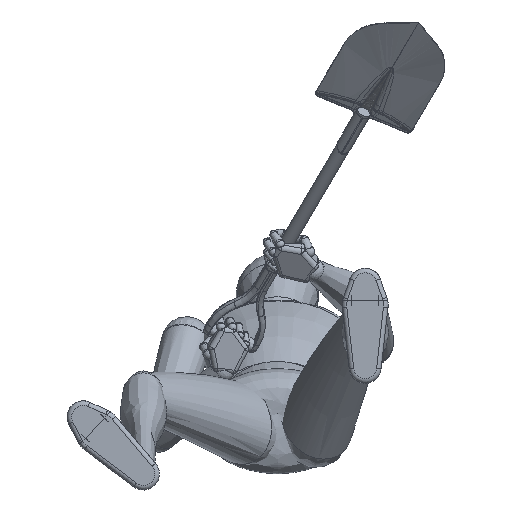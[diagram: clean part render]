
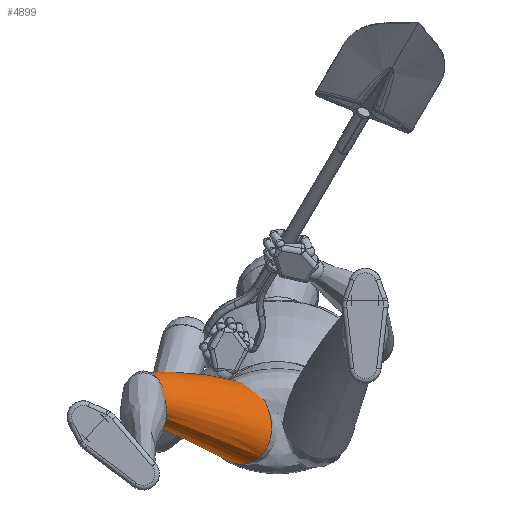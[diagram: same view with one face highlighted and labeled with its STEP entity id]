
A CAD part, front view. The second image highlights one B-rep face of the part: STEP entity #4899.
In plain terms, the highlighted free-form (B-spline) face has degree [3, 3] with [26, 4] control points.
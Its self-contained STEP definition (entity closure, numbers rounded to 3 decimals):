
#771=ELLIPSE('',#5767,55.,45.);
#772=ELLIPSE('',#5768,100.,80.);
#1091=B_SPLINE_SURFACE_WITH_KNOTS('',3,3,((#10746,#10747,#10748,#10749),
(#10750,#10751,#10752,#10753),(#10754,#10755,#10756,#10757),(#10758,#10759,
#10760,#10761),(#10762,#10763,#10764,#10765),(#10766,#10767,#10768,#10769),
(#10770,#10771,#10772,#10773),(#10774,#10775,#10776,#10777),(#10778,#10779,
#10780,#10781),(#10782,#10783,#10784,#10785),(#10786,#10787,#10788,#10789),
(#10790,#10791,#10792,#10793),(#10794,#10795,#10796,#10797),(#10798,#10799,
#10800,#10801),(#10802,#10803,#10804,#10805),(#10806,#10807,#10808,#10809),
(#10810,#10811,#10812,#10813),(#10814,#10815,#10816,#10817),(#10818,#10819,
#10820,#10821),(#10822,#10823,#10824,#10825),(#10826,#10827,#10828,#10829),
(#10830,#10831,#10832,#10833),(#10834,#10835,#10836,#10837),(#10838,#10839,
#10840,#10841),(#10842,#10843,#10844,#10845),(#10846,#10847,#10848,#10849)),
 .UNSPECIFIED.,.T.,.F.,.F.,(4,1,1,1,1,1,1,1,1,1,1,1,1,1,1,1,1,1,1,1,1,1,
1,4),(4,4),(0.,0.036,0.071,0.107,
0.143,0.19,0.238,0.286,
0.333,0.381,0.429,0.476,
0.524,0.571,0.619,0.667,
0.714,0.786,0.821,0.857,
0.893,0.929,0.964,1.),(0.,1.),
 .UNSPECIFIED.);
#1158=B_SPLINE_CURVE_WITH_KNOTS('',3,(#10850,#10851,#10852,#10853),
 .UNSPECIFIED.,.F.,.F.,(4,4),(0.,1.),.UNSPECIFIED.);
#1272=FACE_OUTER_BOUND('',#1588,.T.);
#1588=EDGE_LOOP('',(#3509,#3510,#3511,#3512));
#2253=VERTEX_POINT('',#10628);
#2255=VERTEX_POINT('',#10739);
#2743=EDGE_CURVE('',#2253,#2253,#771,.T.);
#2745=EDGE_CURVE('',#2255,#2255,#772,.T.);
#2747=EDGE_CURVE('',#2255,#2253,#1158,.T.);
#3509=ORIENTED_EDGE('',*,*,#2745,.T.);
#3510=ORIENTED_EDGE('',*,*,#2747,.T.);
#3511=ORIENTED_EDGE('',*,*,#2743,.F.);
#3512=ORIENTED_EDGE('',*,*,#2747,.F.);
#4899=ADVANCED_FACE('',(#1272),#1091,.T.);
#5767=AXIS2_PLACEMENT_3D('',#10629,#6517,#6518);
#5768=AXIS2_PLACEMENT_3D('',#10740,#6519,#6520);
#6517=DIRECTION('center_axis',(0.,-1.,0.));
#6518=DIRECTION('ref_axis',(0.,0.,1.));
#6519=DIRECTION('center_axis',(0.,-1.,0.));
#6520=DIRECTION('ref_axis',(0.,0.,1.));
#10628=CARTESIAN_POINT('',(0.,-360.,-50.));
#10629=CARTESIAN_POINT('Origin',(0.,-360.,5.));
#10739=CARTESIAN_POINT('',(0.,0.,-100.));
#10740=CARTESIAN_POINT('Origin',(0.,0.,0.));
#10746=CARTESIAN_POINT('Ctrl Pts',(0.,0.,-100.));
#10747=CARTESIAN_POINT('Ctrl Pts',(0.,-120.418,
-78.865));
#10748=CARTESIAN_POINT('Ctrl Pts',(0.,-240.418,
-62.198));
#10749=CARTESIAN_POINT('Ctrl Pts',(0.,-360.,-50.));
#10750=CARTESIAN_POINT('Ctrl Pts',(5.984,0.,-100.));
#10751=CARTESIAN_POINT('Ctrl Pts',(5.363,-120.418,-78.865));
#10752=CARTESIAN_POINT('Ctrl Pts',(4.491,-240.418,-62.198));
#10753=CARTESIAN_POINT('Ctrl Pts',(3.366,-360.,-50.));
#10754=CARTESIAN_POINT('Ctrl Pts',(17.952,0.,-98.314));
#10755=CARTESIAN_POINT('Ctrl Pts',(16.089,-120.418,-77.342));
#10756=CARTESIAN_POINT('Ctrl Pts',(13.471,-240.418,-60.928));
#10757=CARTESIAN_POINT('Ctrl Pts',(10.098,-360.,-49.073));
#10758=CARTESIAN_POINT('Ctrl Pts',(35.004,0.,-90.857));
#10759=CARTESIAN_POINT('Ctrl Pts',(31.373,-120.418,-70.603));
#10760=CARTESIAN_POINT('Ctrl Pts',(26.268,-240.418,-55.308));
#10761=CARTESIAN_POINT('Ctrl Pts',(19.69,-360.,-44.971));
#10762=CARTESIAN_POINT('Ctrl Pts',(50.3,0.,-78.842));
#10763=CARTESIAN_POINT('Ctrl Pts',(45.082,-120.418,-59.746));
#10764=CARTESIAN_POINT('Ctrl Pts',(37.746,-240.418,-46.253));
#10765=CARTESIAN_POINT('Ctrl Pts',(28.294,-360.,-38.363));
#10766=CARTESIAN_POINT('Ctrl Pts',(64.496,0.,-61.103));
#10767=CARTESIAN_POINT('Ctrl Pts',(57.805,-120.418,-43.717));
#10768=CARTESIAN_POINT('Ctrl Pts',(48.399,-240.418,-32.885));
#10769=CARTESIAN_POINT('Ctrl Pts',(36.279,-360.,-28.606));
#10770=CARTESIAN_POINT('Ctrl Pts',(75.591,0.,-37.084));
#10771=CARTESIAN_POINT('Ctrl Pts',(67.749,-120.418,-22.013));
#10772=CARTESIAN_POINT('Ctrl Pts',(56.725,-240.418,-14.784));
#10773=CARTESIAN_POINT('Ctrl Pts',(42.52,-360.,-15.396));
#10774=CARTESIAN_POINT('Ctrl Pts',(80.975,0.,-7.584));
#10775=CARTESIAN_POINT('Ctrl Pts',(72.574,-120.418,4.642));
#10776=CARTESIAN_POINT('Ctrl Pts',(60.766,-240.418,7.447));
#10777=CARTESIAN_POINT('Ctrl Pts',(45.548,-360.,0.829));
#10778=CARTESIAN_POINT('Ctrl Pts',(79.167,0.,22.587));
#10779=CARTESIAN_POINT('Ctrl Pts',(70.954,-120.418,31.905));
#10780=CARTESIAN_POINT('Ctrl Pts',(59.409,-240.418,30.184));
#10781=CARTESIAN_POINT('Ctrl Pts',(44.531,-360.,17.423));
#10782=CARTESIAN_POINT('Ctrl Pts',(70.325,0.,50.754));
#10783=CARTESIAN_POINT('Ctrl Pts',(63.029,-120.418,57.357));
#10784=CARTESIAN_POINT('Ctrl Pts',(52.773,-240.418,51.41));
#10785=CARTESIAN_POINT('Ctrl Pts',(39.558,-360.,32.915));
#10786=CARTESIAN_POINT('Ctrl Pts',(55.231,0.,74.406));
#10787=CARTESIAN_POINT('Ctrl Pts',(49.501,-120.418,78.729));
#10788=CARTESIAN_POINT('Ctrl Pts',(41.447,-240.418,69.236));
#10789=CARTESIAN_POINT('Ctrl Pts',(31.067,-360.,45.923));
#10790=CARTESIAN_POINT('Ctrl Pts',(35.233,0.,91.454));
#10791=CARTESIAN_POINT('Ctrl Pts',(31.578,-120.418,94.135));
#10792=CARTESIAN_POINT('Ctrl Pts',(26.44,-240.418,82.083));
#10793=CARTESIAN_POINT('Ctrl Pts',(19.819,-360.,55.3));
#10794=CARTESIAN_POINT('Ctrl Pts',(12.102,0.,100.368));
#10795=CARTESIAN_POINT('Ctrl Pts',(10.846,-120.418,102.189));
#10796=CARTESIAN_POINT('Ctrl Pts',(9.082,-240.418,88.801));
#10797=CARTESIAN_POINT('Ctrl Pts',(6.807,-360.,60.203));
#10798=CARTESIAN_POINT('Ctrl Pts',(-12.103,0.,100.372));
#10799=CARTESIAN_POINT('Ctrl Pts',(-10.848,-120.418,
102.193));
#10800=CARTESIAN_POINT('Ctrl Pts',(-9.083,-240.418,
88.803));
#10801=CARTESIAN_POINT('Ctrl Pts',(-6.808,-360.,60.205));
#10802=CARTESIAN_POINT('Ctrl Pts',(-35.233,0.,91.453));
#10803=CARTESIAN_POINT('Ctrl Pts',(-31.578,-120.418,
94.133));
#10804=CARTESIAN_POINT('Ctrl Pts',(-26.439,-240.418,
82.082));
#10805=CARTESIAN_POINT('Ctrl Pts',(-19.819,-360.,55.299));
#10806=CARTESIAN_POINT('Ctrl Pts',(-55.236,0.,74.407));
#10807=CARTESIAN_POINT('Ctrl Pts',(-49.506,-120.418,
78.73));
#10808=CARTESIAN_POINT('Ctrl Pts',(-41.451,-240.418,
69.236));
#10809=CARTESIAN_POINT('Ctrl Pts',(-31.07,-360.,45.924));
#10810=CARTESIAN_POINT('Ctrl Pts',(-70.322,0.,50.752));
#10811=CARTESIAN_POINT('Ctrl Pts',(-63.027,-120.418,
57.356));
#10812=CARTESIAN_POINT('Ctrl Pts',(-52.77,-240.418,
51.41));
#10813=CARTESIAN_POINT('Ctrl Pts',(-39.556,-360.,32.914));
#10814=CARTESIAN_POINT('Ctrl Pts',(-80.659,0.,17.892));
#10815=CARTESIAN_POINT('Ctrl Pts',(-72.292,-120.418,
27.663));
#10816=CARTESIAN_POINT('Ctrl Pts',(-60.528,-240.418,
26.646));
#10817=CARTESIAN_POINT('Ctrl Pts',(-45.371,-360.,14.841));
#10818=CARTESIAN_POINT('Ctrl Pts',(-80.658,0.,-15.335));
#10819=CARTESIAN_POINT('Ctrl Pts',(-72.29,-120.418,
-2.361));
#10820=CARTESIAN_POINT('Ctrl Pts',(-60.529,-240.418,
1.606));
#10821=CARTESIAN_POINT('Ctrl Pts',(-45.37,-360.,-3.434));
#10822=CARTESIAN_POINT('Ctrl Pts',(-72.677,0.,-43.754));
#10823=CARTESIAN_POINT('Ctrl Pts',(-65.137,-120.418,
-28.041));
#10824=CARTESIAN_POINT('Ctrl Pts',(-54.539,-240.418,
-19.811));
#10825=CARTESIAN_POINT('Ctrl Pts',(-40.881,-360.,-19.065));
#10826=CARTESIAN_POINT('Ctrl Pts',(-63.074,0.,-62.875));
#10827=CARTESIAN_POINT('Ctrl Pts',(-56.53,-120.418,
-45.318));
#10828=CARTESIAN_POINT('Ctrl Pts',(-47.334,-240.418,
-34.22));
#10829=CARTESIAN_POINT('Ctrl Pts',(-35.479,-360.,-29.581));
#10830=CARTESIAN_POINT('Ctrl Pts',(-50.296,0.,-78.842));
#10831=CARTESIAN_POINT('Ctrl Pts',(-45.078,-120.418,
-59.746));
#10832=CARTESIAN_POINT('Ctrl Pts',(-37.744,-240.418,
-46.253));
#10833=CARTESIAN_POINT('Ctrl Pts',(-28.292,-360.,-38.363));
#10834=CARTESIAN_POINT('Ctrl Pts',(-35.003,0.,-90.856));
#10835=CARTESIAN_POINT('Ctrl Pts',(-31.372,-120.418,
-70.603));
#10836=CARTESIAN_POINT('Ctrl Pts',(-26.268,-240.418,
-55.308));
#10837=CARTESIAN_POINT('Ctrl Pts',(-19.689,-360.,-44.971));
#10838=CARTESIAN_POINT('Ctrl Pts',(-17.951,0.,-98.314));
#10839=CARTESIAN_POINT('Ctrl Pts',(-16.089,-120.418,-77.342));
#10840=CARTESIAN_POINT('Ctrl Pts',(-13.471,-240.418,
-60.928));
#10841=CARTESIAN_POINT('Ctrl Pts',(-10.097,-360.,-49.073));
#10842=CARTESIAN_POINT('Ctrl Pts',(-5.984,0.,-100.));
#10843=CARTESIAN_POINT('Ctrl Pts',(-5.363,-120.418,
-78.865));
#10844=CARTESIAN_POINT('Ctrl Pts',(-4.491,-240.418,
-62.198));
#10845=CARTESIAN_POINT('Ctrl Pts',(-3.366,-360.,-50.));
#10846=CARTESIAN_POINT('Ctrl Pts',(0.,0.,-100.));
#10847=CARTESIAN_POINT('Ctrl Pts',(0.,-120.418,
-78.865));
#10848=CARTESIAN_POINT('Ctrl Pts',(0.,-240.418,
-62.198));
#10849=CARTESIAN_POINT('Ctrl Pts',(0.,-360.,-50.));
#10850=CARTESIAN_POINT('Ctrl Pts',(0.,0.,-100.));
#10851=CARTESIAN_POINT('Ctrl Pts',(0.,-120.418,
-78.865));
#10852=CARTESIAN_POINT('Ctrl Pts',(0.,-240.418,
-62.198));
#10853=CARTESIAN_POINT('Ctrl Pts',(0.,-360.,-50.));
